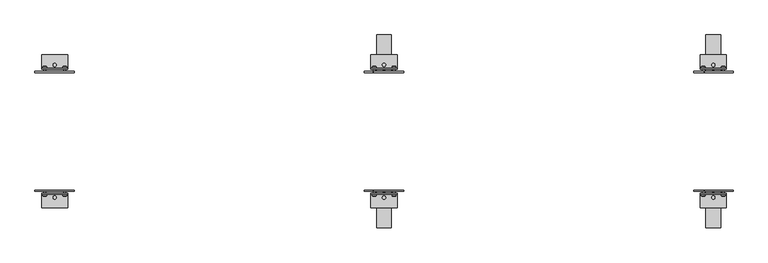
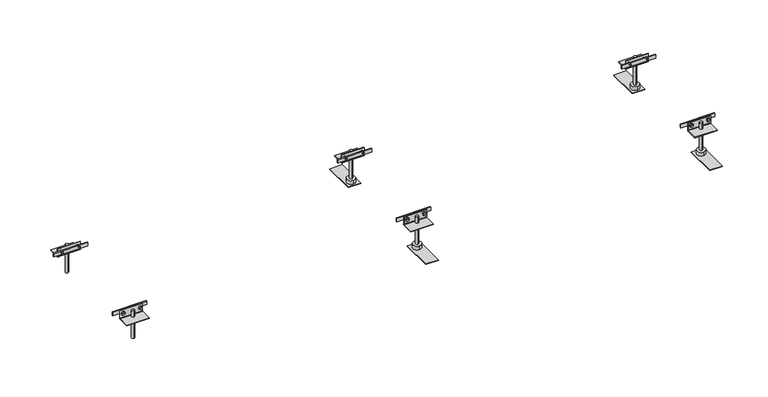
"""IFC4 building model written with IfcOpenShell, lengths in millimetres: proxy geometry, Electrical_Installation_Hager_BKW-Trunking-System-With-Trunking-Bottom-For-Dry-Cleaned-Floors : Nominal Size 300  Length 2.4 m."""

from ifc_helpers import new_model, si_unit, point, frame, frame_2d, origin, place, context, project, spatial, polyline, circle_curve, ellipse_curve, trimmed, segment, composite_curve, outline, extrude, source, transform, mapped, element, save
from ifc_brep_helpers import plane_surface, cylinder_surface, revolved_surface, advanced_brep


def electrical_fixtures_0b4ac500(model_context):
    return source(origin(), model_context, "Body", "SolidModel", [
        advanced_brep(
        [(1629.0575247, -156.6418922, 2.5), (1619.4769168, -156.6418922, 2.5), (1619.4769168, -154.7, 2.5), (1629.0575247, -154.7, 2.5), (1621.7042517, -154.7, 2.5), (1626.8301898, -154.7, 2.5), (1621.7042517, -142.7, 2.5), (1626.8301898, -142.7, 2.5), (1624.2672208, -142.7, 2.5), (1624.2672208, -158.3479209, 2.5)],
        [
            (0, 1, circle_curve(frame((1624.2672208, -156.6418922, 2.5), z_axis=(0.0, 1.0, 0.0), x_axis=(-1.0, 0.0, 0.0)), 4.790304)),
            (1, 2),
            (2, 3, circle_curve(frame((1624.2672208, -154.7, 2.5), z_axis=(0.0, -1.0, 0.0), x_axis=(-1.0, 0.0, 0.0)), 4.790304)),
            (3, 0),
            (1, 0, circle_curve(frame((1624.2672208, -156.6418922, 2.5), z_axis=(0.0, 1.0, 0.0), x_axis=(-1.0, 0.0, 0.0)), 4.790304)),
            (3, 2, circle_curve(frame((1624.2672208, -154.7, 2.5), z_axis=(0.0, -1.0, 0.0), x_axis=(-1.0, 0.0, 0.0)), 4.790304)),
            (2, 4),
            (4, 5, circle_curve(frame((1624.2672208, -154.7, 2.5), z_axis=(0.0, -1.0, 0.0), x_axis=(-1.0, 0.0, 0.0)), 2.562969)),
            (5, 3),
            (5, 4, circle_curve(frame((1624.2672208, -154.7, 2.5), z_axis=(0.0, -1.0, 0.0), x_axis=(-1.0, 0.0, 0.0)), 2.562969)),
            (4, 6),
            (6, 7, circle_curve(frame((1624.2672208, -142.7, 2.5), z_axis=(0.0, -1.0, 0.0), x_axis=(-1.0, 0.0, 0.0)), 2.562969)),
            (7, 5),
            (7, 6, circle_curve(frame((1624.2672208, -142.7, 2.5), z_axis=(0.0, -1.0, 0.0), x_axis=(-1.0, 0.0, 0.0)), 2.562969)),
            (6, 8),
            (8, 7),
            (9, 1, circle_curve(frame((1624.2353142, -150.8592246, 2.5), z_axis=(0.0, 0.0, -1.0), x_axis=(-1.0, 0.0, 0.0)), 7.4887643)),
            (0, 9, circle_curve(frame((1624.2991274, -150.8592246, 2.5), z_axis=(0.0, 0.0, -1.0), x_axis=(1.0, 0.0, 0.0)), 7.4887643)),
        ],
        [
            cylinder_surface(frame((1624.2672208, -154.2950786, 2.5), z_axis=(0.0, -1.0, 0.0), x_axis=(-1.0, 0.0, 0.0)), 4.790304),
            plane_surface(frame((1624.2672208, -154.7, 2.5), z_axis=(0.0, 1.0, 0.0), x_axis=(-1.0, 0.0, 0.0))),
            cylinder_surface(frame((1624.2672208, -154.2950786, 2.5), z_axis=(0.0, -1.0, 0.0), x_axis=(-1.0, 0.0, 0.0)), 2.562969),
            plane_surface(frame((1624.2672208, -142.7, 2.5), z_axis=(0.0, 1.0, 0.0), x_axis=(-1.0, 0.0, 0.0))),
            revolved_surface(trimmed(ellipse_curve(frame((1624.2353142, -150.8592246, 2.5), z_axis=(0.0, 0.0, 1.0), x_axis=(-1.0, 0.0, 0.0)), 7.4887643, 7.4887643), [point((1619.4769168, -156.6418922, 2.5))], [point((1624.2672208, -158.3479209, 2.5))], True, "CARTESIAN"), (1624.2672208, -154.2950786, 2.5), (0.0, -1.0, 0.0)),
        ],
        [
            (0, [[1, 2, 3, 4]]),
            (0, [[5, -4, 6, -2]]),
            (1, [[-3, 7, 8, 9]]),
            (1, [[-6, -9, 10, -7]]),
            (2, [[-8, 11, 12, 13]]),
            (2, [[-10, -13, 14, -11]]),
            (3, [[-12, 15, 16]]),
            (3, [[-14, -16, -15]]),
            (4, [[17, -1, 18]]),
            (4, [[-18, -5, -17]]),
        ],
    ),
        advanced_brep(
        [(1580.790304, -156.6418922, 2.5), (1571.209696, -156.6418922, 2.5), (1571.209696, -154.7, 2.5), (1580.790304, -154.7, 2.5), (1573.437031, -154.7, 2.5), (1578.562969, -154.7, 2.5), (1573.437031, -142.7, 2.5), (1578.562969, -142.7, 2.5), (1576.0, -142.7, 2.5), (1576.0, -158.3479209, 2.5)],
        [
            (0, 1, circle_curve(frame((1576.0, -156.6418922, 2.5), z_axis=(0.0, 1.0, 0.0), x_axis=(-1.0, 0.0, 0.0)), 4.790304)),
            (1, 2),
            (2, 3, circle_curve(frame((1576.0, -154.7, 2.5), z_axis=(0.0, -1.0, 0.0), x_axis=(-1.0, 0.0, 0.0)), 4.790304)),
            (3, 0),
            (1, 0, circle_curve(frame((1576.0, -156.6418922, 2.5), z_axis=(0.0, 1.0, 0.0), x_axis=(-1.0, 0.0, 0.0)), 4.790304)),
            (3, 2, circle_curve(frame((1576.0, -154.7, 2.5), z_axis=(0.0, -1.0, 0.0), x_axis=(-1.0, 0.0, 0.0)), 4.790304)),
            (2, 4),
            (4, 5, circle_curve(frame((1576.0, -154.7, 2.5), z_axis=(0.0, -1.0, 0.0), x_axis=(-1.0, 0.0, 0.0)), 2.562969)),
            (5, 3),
            (5, 4, circle_curve(frame((1576.0, -154.7, 2.5), z_axis=(0.0, -1.0, 0.0), x_axis=(-1.0, 0.0, 0.0)), 2.562969)),
            (4, 6),
            (6, 7, circle_curve(frame((1576.0, -142.7, 2.5), z_axis=(0.0, -1.0, 0.0), x_axis=(-1.0, 0.0, 0.0)), 2.562969)),
            (7, 5),
            (7, 6, circle_curve(frame((1576.0, -142.7, 2.5), z_axis=(0.0, -1.0, 0.0), x_axis=(-1.0, 0.0, 0.0)), 2.562969)),
            (6, 8),
            (8, 7),
            (9, 1, circle_curve(frame((1575.9680934, -150.8592246, 2.5), z_axis=(0.0, 0.0, -1.0), x_axis=(-1.0, 0.0, 0.0)), 7.4887643)),
            (0, 9, circle_curve(frame((1576.0319066, -150.8592246, 2.5), z_axis=(0.0, 0.0, -1.0), x_axis=(1.0, 0.0, 0.0)), 7.4887643)),
        ],
        [
            cylinder_surface(frame((1576.0, -154.2950786, 2.5), z_axis=(0.0, -1.0, 0.0), x_axis=(-1.0, 0.0, 0.0)), 4.790304),
            plane_surface(frame((1576.0, -154.7, 2.5), z_axis=(0.0, 1.0, 0.0), x_axis=(-1.0, 0.0, 0.0))),
            cylinder_surface(frame((1576.0, -154.2950786, 2.5), z_axis=(0.0, -1.0, 0.0), x_axis=(-1.0, 0.0, 0.0)), 2.562969),
            plane_surface(frame((1576.0, -142.7, 2.5), z_axis=(0.0, 1.0, 0.0), x_axis=(-1.0, 0.0, 0.0))),
            revolved_surface(trimmed(ellipse_curve(frame((1575.9680934, -150.8592246, 2.5), z_axis=(0.0, 0.0, 1.0), x_axis=(-1.0, 0.0, 0.0)), 7.4887643, 7.4887643), [point((1571.209696, -156.6418922, 2.5))], [point((1576.0, -158.3479209, 2.5))], True, "CARTESIAN"), (1576.0, -154.2950786, 2.5), (0.0, -1.0, 0.0)),
        ],
        [
            (0, [[1, 2, 3, 4]]),
            (0, [[5, -4, 6, -2]]),
            (1, [[-3, 7, 8, 9]]),
            (1, [[-6, -9, 10, -7]]),
            (2, [[-8, 11, 12, 13]]),
            (2, [[-10, -13, 14, -11]]),
            (3, [[-12, 15, 16]]),
            (3, [[-14, -16, -15]]),
            (4, [[17, -1, 18]]),
            (4, [[-18, -5, -17]]),
        ],
    ),
        advanced_brep(
        [(1629.0575247, 154.7, 2.5), (1619.4769168, 154.7, 2.5), (1619.4769168, 156.6418922, 2.5), (1629.0575247, 156.6418922, 2.5), (1626.8301898, 154.7, 2.5), (1621.7042517, 154.7, 2.5), (1626.8301898, 142.7, 2.5), (1621.7042517, 142.7, 2.5), (1624.2672208, 142.7, 2.5), (1624.2672208, 158.3479209, 2.5)],
        [
            (0, 1, circle_curve(frame((1624.2672208, 154.7, 2.5), z_axis=(0.0, 1.0, 0.0), x_axis=(-1.0, 0.0, 0.0)), 4.790304)),
            (1, 2),
            (2, 3, circle_curve(frame((1624.2672208, 156.6418922, 2.5), z_axis=(0.0, -1.0, 0.0), x_axis=(-1.0, 0.0, 0.0)), 4.790304)),
            (3, 0),
            (1, 0, circle_curve(frame((1624.2672208, 154.7, 2.5), z_axis=(0.0, 1.0, 0.0), x_axis=(-1.0, 0.0, 0.0)), 4.790304)),
            (3, 2, circle_curve(frame((1624.2672208, 156.6418922, 2.5), z_axis=(0.0, -1.0, 0.0), x_axis=(-1.0, 0.0, 0.0)), 4.790304)),
            (4, 5, circle_curve(frame((1624.2672208, 154.7, 2.5), z_axis=(0.0, 1.0, 0.0), x_axis=(-1.0, 0.0, 0.0)), 2.562969)),
            (5, 1),
            (0, 4),
            (5, 4, circle_curve(frame((1624.2672208, 154.7, 2.5), z_axis=(0.0, 1.0, 0.0), x_axis=(-1.0, 0.0, 0.0)), 2.562969)),
            (6, 7, circle_curve(frame((1624.2672208, 142.7, 2.5), z_axis=(0.0, 1.0, 0.0), x_axis=(-1.0, 0.0, 0.0)), 2.562969)),
            (7, 5),
            (4, 6),
            (7, 6, circle_curve(frame((1624.2672208, 142.7, 2.5), z_axis=(0.0, 1.0, 0.0), x_axis=(-1.0, 0.0, 0.0)), 2.562969)),
            (8, 7),
            (6, 8),
            (2, 9, circle_curve(frame((1624.2353142, 150.8592246, 2.5), z_axis=(0.0, 0.0, -1.0), x_axis=(-1.0, 0.0, 0.0)), 7.4887643)),
            (9, 3, circle_curve(frame((1624.2991274, 150.8592246, 2.5), z_axis=(0.0, 0.0, -1.0), x_axis=(1.0, 0.0, 0.0)), 7.4887643)),
        ],
        [
            cylinder_surface(frame((1624.2672208, 154.2950786, 2.5), z_axis=(0.0, -1.0, 0.0), x_axis=(-1.0, 0.0, 0.0)), 4.790304),
            plane_surface(frame((1624.2672208, 154.7, 2.5), z_axis=(0.0, -1.0, 0.0), x_axis=(-1.0, 0.0, 0.0))),
            cylinder_surface(frame((1624.2672208, 154.2950786, 2.5), z_axis=(0.0, -1.0, 0.0), x_axis=(-1.0, 0.0, 0.0)), 2.562969),
            plane_surface(frame((1624.2672208, 142.7, 2.5), z_axis=(0.0, -1.0, 0.0), x_axis=(-1.0, 0.0, 0.0))),
            revolved_surface(trimmed(ellipse_curve(frame((1624.2353142, 150.8592246, 2.5), z_axis=(0.0, 0.0, 1.0), x_axis=(-1.0, 0.0, 0.0)), 7.4887643, 7.4887643), [point((1624.2672208, 158.3479209, 2.5))], [point((1619.4769168, 156.6418922, 2.5))], True, "CARTESIAN"), (1624.2672208, 154.2950786, 2.5), (0.0, -1.0, 0.0)),
        ],
        [
            (0, [[1, 2, 3, 4]]),
            (0, [[5, -4, 6, -2]]),
            (1, [[7, 8, -1, 9]]),
            (1, [[10, -9, -5, -8]]),
            (2, [[11, 12, -7, 13]]),
            (2, [[14, -13, -10, -12]]),
            (3, [[15, -11, 16]]),
            (3, [[-16, -14, -15]]),
            (4, [[-3, 17, 18]]),
            (4, [[-6, -18, -17]]),
        ],
    ),
        advanced_brep(
        [(1580.790304, 154.7, 2.5), (1571.209696, 154.7, 2.5), (1571.209696, 156.6418922, 2.5), (1580.790304, 156.6418922, 2.5), (1578.562969, 154.7, 2.5), (1573.437031, 154.7, 2.5), (1578.562969, 142.7, 2.5), (1573.437031, 142.7, 2.5), (1576.0, 142.7, 2.5), (1576.0, 158.3479209, 2.5)],
        [
            (0, 1, circle_curve(frame((1576.0, 154.7, 2.5), z_axis=(0.0, 1.0, 0.0), x_axis=(-1.0, 0.0, 0.0)), 4.790304)),
            (1, 2),
            (2, 3, circle_curve(frame((1576.0, 156.6418922, 2.5), z_axis=(0.0, -1.0, 0.0), x_axis=(-1.0, 0.0, 0.0)), 4.790304)),
            (3, 0),
            (1, 0, circle_curve(frame((1576.0, 154.7, 2.5), z_axis=(0.0, 1.0, 0.0), x_axis=(-1.0, 0.0, 0.0)), 4.790304)),
            (3, 2, circle_curve(frame((1576.0, 156.6418922, 2.5), z_axis=(0.0, -1.0, 0.0), x_axis=(-1.0, 0.0, 0.0)), 4.790304)),
            (4, 5, circle_curve(frame((1576.0, 154.7, 2.5), z_axis=(0.0, 1.0, 0.0), x_axis=(-1.0, 0.0, 0.0)), 2.562969)),
            (5, 1),
            (0, 4),
            (5, 4, circle_curve(frame((1576.0, 154.7, 2.5), z_axis=(0.0, 1.0, 0.0), x_axis=(-1.0, 0.0, 0.0)), 2.562969)),
            (6, 7, circle_curve(frame((1576.0, 142.7, 2.5), z_axis=(0.0, 1.0, 0.0), x_axis=(-1.0, 0.0, 0.0)), 2.562969)),
            (7, 5),
            (4, 6),
            (7, 6, circle_curve(frame((1576.0, 142.7, 2.5), z_axis=(0.0, 1.0, 0.0), x_axis=(-1.0, 0.0, 0.0)), 2.562969)),
            (8, 7),
            (6, 8),
            (2, 9, circle_curve(frame((1575.9680934, 150.8592246, 2.5), z_axis=(0.0, 0.0, -1.0), x_axis=(-1.0, 0.0, 0.0)), 7.4887643)),
            (9, 3, circle_curve(frame((1576.0319066, 150.8592246, 2.5), z_axis=(0.0, 0.0, -1.0), x_axis=(1.0, 0.0, 0.0)), 7.4887643)),
        ],
        [
            cylinder_surface(frame((1576.0, 154.2950786, 2.5), z_axis=(0.0, -1.0, 0.0), x_axis=(-1.0, 0.0, 0.0)), 4.790304),
            plane_surface(frame((1576.0, 154.7, 2.5), z_axis=(0.0, -1.0, 0.0), x_axis=(-1.0, 0.0, 0.0))),
            cylinder_surface(frame((1576.0, 154.2950786, 2.5), z_axis=(0.0, -1.0, 0.0), x_axis=(-1.0, 0.0, 0.0)), 2.562969),
            plane_surface(frame((1576.0, 142.7, 2.5), z_axis=(0.0, -1.0, 0.0), x_axis=(-1.0, 0.0, 0.0))),
            revolved_surface(trimmed(ellipse_curve(frame((1575.9680934, 150.8592246, 2.5), z_axis=(0.0, 0.0, 1.0), x_axis=(-1.0, 0.0, 0.0)), 7.4887643, 7.4887643), [point((1576.0, 158.3479209, 2.5))], [point((1571.209696, 156.6418922, 2.5))], True, "CARTESIAN"), (1576.0, 154.2950786, 2.5), (0.0, -1.0, 0.0)),
        ],
        [
            (0, [[1, 2, 3, 4]]),
            (0, [[5, -4, 6, -2]]),
            (1, [[7, 8, -1, 9]]),
            (1, [[10, -9, -5, -8]]),
            (2, [[11, 12, -7, 13]]),
            (2, [[14, -13, -10, -12]]),
            (3, [[15, -11, 16]]),
            (3, [[-16, -14, -15]]),
            (4, [[-3, 17, 18]]),
            (4, [[-6, -18, -17]]),
        ],
    ),
        extrude(outline(polyline([(1552.0, 142.7), (1552.0, 145.7), (1648.0, 145.7), (1648.0, 142.7), (1552.0, 142.7)])), frame((0.0, 0.0, -2.5), z_axis=(0.0, 0.0, 1.0), x_axis=(1.0, 0.0, 0.0)), (0.0, 0.0, 1.0), 10.0),
        extrude(outline(polyline([(1552.0, -145.7), (1552.0, -142.7), (1648.0, -142.7), (1648.0, -145.7), (1552.0, -145.7)])), frame((0.0, 0.0, -2.5), z_axis=(0.0, 0.0, 1.0), x_axis=(1.0, 0.0, 0.0)), (0.0, 0.0, 1.0), 10.0),
        extrude(outline(composite_curve([segment(polyline([(150.6, 10.9), (152.6, 10.9), (152.6, -11.1088822)]), True, "CONTINUOUS"), segment(trimmed(circle_curve(frame_2d((153.5911178, -11.1088822)), 0.9911178), [point((152.6, -11.1088822))], [point((153.5911178, -12.1))], True, "CARTESIAN"), True, "CONTINUOUS"), segment(polyline([(153.5911178, -12.1), (185.6, -12.1), (185.6, -14.1), (153.6002521, -14.1)]), True, "CONTINUOUS"), segment(trimmed(circle_curve(frame_2d((153.6002521, -11.0997479)), 3.0002521), [point((153.6002521, -14.1))], [point((150.6, -11.0997479))], False, "CARTESIAN"), True, "CONTINUOUS"), segment(polyline([(150.6, -11.0997479), (150.6, 10.9)]), True, "CONTINUOUS")], self_intersect=False)), frame((1568.3, 0.0, 0.0), z_axis=(1.0, 0.0, 0.0), x_axis=(0.0, 1.0, 0.0)), (0.0, 0.0, 1.0), 63.4),
        extrude(outline(composite_curve([segment(polyline([(-150.6, 10.9), (-150.6, -11.0997479)]), True, "CONTINUOUS"), segment(trimmed(circle_curve(frame_2d((-153.6002521, -11.0997479)), 3.0002521), [point((-150.6, -11.0997479))], [point((-153.6002521, -14.1))], False, "CARTESIAN"), True, "CONTINUOUS"), segment(polyline([(-153.6002521, -14.1), (-185.6, -14.1), (-185.6, -12.1), (-153.5911178, -12.1)]), True, "CONTINUOUS"), segment(trimmed(circle_curve(frame_2d((-153.5911178, -11.1088822)), 0.9911178), [point((-153.5911178, -12.1))], [point((-152.6, -11.1088822))], True, "CARTESIAN"), True, "CONTINUOUS"), segment(polyline([(-152.6, -11.1088822), (-152.6, 10.9), (-150.6, 10.9)]), True, "CONTINUOUS")], self_intersect=False)), frame((1568.3, 0.0, 0.0), z_axis=(1.0, 0.0, 0.0), x_axis=(0.0, 1.0, 0.0)), (0.0, 0.0, 1.0), 63.4),
        extrude(outline(composite_curve([segment(trimmed(circle_curve(frame_2d((1600.0, 161.1712378)), 3.9923162), [point((1600.0, 165.163554))], [point((1600.0, 157.1789216))], False, "CARTESIAN"), True, "CONTINUOUS"), segment(trimmed(circle_curve(frame_2d((1600.0, 161.1712378)), 3.9923162), [point((1600.0, 157.1789216))], [point((1600.0, 165.163554))], False, "CARTESIAN"), True, "CONTINUOUS")], self_intersect=False)), frame((0.0, 0.0, -74.8), z_axis=(0.0, 0.0, 1.0), x_axis=(1.0, 0.0, 0.0)), (0.0, 0.0, 1.0), 81.8),
        extrude(outline(composite_curve([segment(trimmed(circle_curve(frame_2d((1600.0, -161.0787011)), 3.991847), [point((1600.0, -157.0868541))], [point((1600.0, -165.0705482))], False, "CARTESIAN"), True, "CONTINUOUS"), segment(trimmed(circle_curve(frame_2d((1600.0, -161.0787011)), 3.991847), [point((1600.0, -165.0705482))], [point((1600.0, -157.0868541))], False, "CARTESIAN"), True, "CONTINUOUS")], self_intersect=False)), frame((0.0, 0.0, -74.8), z_axis=(0.0, 0.0, 1.0), x_axis=(1.0, 0.0, 0.0)), (0.0, 0.0, 1.0), 81.8),
        extrude(outline(composite_curve([segment(trimmed(circle_curve(frame_2d((1600.0, 161.1652527)), 12.0), [point((1600.0, 173.1652527))], [point((1600.0, 149.1652527))], False, "CARTESIAN"), True, "CONTINUOUS"), segment(trimmed(circle_curve(frame_2d((1600.0, 161.1652527)), 12.0), [point((1600.0, 149.1652527))], [point((1600.0, 173.1652527))], False, "CARTESIAN"), True, "CONTINUOUS")], self_intersect=False)), frame((0.0, 0.0, -85.5), z_axis=(0.0, 0.0, 1.0), x_axis=(1.0, 0.0, 0.0)), (0.0, 0.0, 1.0), 10.7),
        extrude(outline(composite_curve([segment(trimmed(circle_curve(frame_2d((1600.0, -161.112037)), 12.0), [point((1600.0, -149.112037))], [point((1600.0, -173.112037))], False, "CARTESIAN"), True, "CONTINUOUS"), segment(trimmed(circle_curve(frame_2d((1600.0, -161.112037)), 12.0), [point((1600.0, -173.112037))], [point((1600.0, -149.112037))], False, "CARTESIAN"), True, "CONTINUOUS")], self_intersect=False)), frame((0.0, 0.0, -85.5), z_axis=(0.0, 0.0, 1.0), x_axis=(1.0, 0.0, 0.0)), (0.0, 0.0, 1.0), 10.7),
        extrude(outline(polyline([(1618.0, 144.1), (1582.0, 144.1), (1582.0, 234.1), (1618.0, 234.1), (1618.0, 144.1)])), frame((0.0, 0.0, -87.0), z_axis=(0.0, 0.0, 1.0), x_axis=(1.0, 0.0, 0.0)), (0.0, 0.0, 1.0), 1.5),
        extrude(outline(polyline([(1618.0, -234.1), (1582.0, -234.1), (1582.0, -144.1), (1618.0, -144.1), (1618.0, -234.1)])), frame((0.0, 0.0, -87.0), z_axis=(0.0, 0.0, 1.0), x_axis=(1.0, 0.0, 0.0)), (0.0, 0.0, 1.0), 1.5),
        advanced_brep(
        [(829.0575247, -156.6418922, 2.5), (819.4769168, -156.6418922, 2.5), (819.4769168, -154.7, 2.5), (829.0575247, -154.7, 2.5), (821.7042517, -154.7, 2.5), (826.8301898, -154.7, 2.5), (821.7042517, -142.7, 2.5), (826.8301898, -142.7, 2.5), (824.2672208, -142.7, 2.5), (824.2672208, -158.3479209, 2.5)],
        [
            (0, 1, circle_curve(frame((824.2672208, -156.6418922, 2.5), z_axis=(0.0, 1.0, 0.0), x_axis=(-1.0, 0.0, 0.0)), 4.790304)),
            (1, 2),
            (2, 3, circle_curve(frame((824.2672208, -154.7, 2.5), z_axis=(0.0, -1.0, 0.0), x_axis=(-1.0, 0.0, 0.0)), 4.790304)),
            (3, 0),
            (1, 0, circle_curve(frame((824.2672208, -156.6418922, 2.5), z_axis=(0.0, 1.0, 0.0), x_axis=(-1.0, 0.0, 0.0)), 4.790304)),
            (3, 2, circle_curve(frame((824.2672208, -154.7, 2.5), z_axis=(0.0, -1.0, 0.0), x_axis=(-1.0, 0.0, 0.0)), 4.790304)),
            (2, 4),
            (4, 5, circle_curve(frame((824.2672208, -154.7, 2.5), z_axis=(0.0, -1.0, 0.0), x_axis=(-1.0, 0.0, 0.0)), 2.562969)),
            (5, 3),
            (5, 4, circle_curve(frame((824.2672208, -154.7, 2.5), z_axis=(0.0, -1.0, 0.0), x_axis=(-1.0, 0.0, 0.0)), 2.562969)),
            (4, 6),
            (6, 7, circle_curve(frame((824.2672208, -142.7, 2.5), z_axis=(0.0, -1.0, 0.0), x_axis=(-1.0, 0.0, 0.0)), 2.562969)),
            (7, 5),
            (7, 6, circle_curve(frame((824.2672208, -142.7, 2.5), z_axis=(0.0, -1.0, 0.0), x_axis=(-1.0, 0.0, 0.0)), 2.562969)),
            (6, 8),
            (8, 7),
            (9, 1, circle_curve(frame((824.2353142, -150.8592246, 2.5), z_axis=(0.0, 0.0, -1.0), x_axis=(-1.0, 0.0, 0.0)), 7.4887643)),
            (0, 9, circle_curve(frame((824.2991274, -150.8592246, 2.5), z_axis=(0.0, 0.0, -1.0), x_axis=(1.0, 0.0, 0.0)), 7.4887643)),
        ],
        [
            cylinder_surface(frame((824.2672208, -154.2950786, 2.5), z_axis=(0.0, -1.0, 0.0), x_axis=(-1.0, 0.0, 0.0)), 4.790304),
            plane_surface(frame((824.2672208, -154.7, 2.5), z_axis=(0.0, 1.0, 0.0), x_axis=(-1.0, 0.0, 0.0))),
            cylinder_surface(frame((824.2672208, -154.2950786, 2.5), z_axis=(0.0, -1.0, 0.0), x_axis=(-1.0, 0.0, 0.0)), 2.562969),
            plane_surface(frame((824.2672208, -142.7, 2.5), z_axis=(0.0, 1.0, 0.0), x_axis=(-1.0, 0.0, 0.0))),
            revolved_surface(trimmed(ellipse_curve(frame((824.2353142, -150.8592246, 2.5), z_axis=(0.0, 0.0, 1.0), x_axis=(-1.0, 0.0, 0.0)), 7.4887643, 7.4887643), [point((819.4769168, -156.6418922, 2.5))], [point((824.2672208, -158.3479209, 2.5))], True, "CARTESIAN"), (824.2672208, -154.2950786, 2.5), (0.0, -1.0, 0.0)),
        ],
        [
            (0, [[1, 2, 3, 4]]),
            (0, [[5, -4, 6, -2]]),
            (1, [[-3, 7, 8, 9]]),
            (1, [[-6, -9, 10, -7]]),
            (2, [[-8, 11, 12, 13]]),
            (2, [[-10, -13, 14, -11]]),
            (3, [[-12, 15, 16]]),
            (3, [[-14, -16, -15]]),
            (4, [[17, -1, 18]]),
            (4, [[-18, -5, -17]]),
        ],
    ),
        advanced_brep(
        [(780.790304, -156.6418922, 2.5), (771.209696, -156.6418922, 2.5), (771.209696, -154.7, 2.5), (780.790304, -154.7, 2.5), (773.437031, -154.7, 2.5), (778.562969, -154.7, 2.5), (773.437031, -142.7, 2.5), (778.562969, -142.7, 2.5), (776.0, -142.7, 2.5), (776.0, -158.3479209, 2.5)],
        [
            (0, 1, circle_curve(frame((776.0, -156.6418922, 2.5), z_axis=(0.0, 1.0, 0.0), x_axis=(-1.0, 0.0, 0.0)), 4.790304)),
            (1, 2),
            (2, 3, circle_curve(frame((776.0, -154.7, 2.5), z_axis=(0.0, -1.0, 0.0), x_axis=(-1.0, 0.0, 0.0)), 4.790304)),
            (3, 0),
            (1, 0, circle_curve(frame((776.0, -156.6418922, 2.5), z_axis=(0.0, 1.0, 0.0), x_axis=(-1.0, 0.0, 0.0)), 4.790304)),
            (3, 2, circle_curve(frame((776.0, -154.7, 2.5), z_axis=(0.0, -1.0, 0.0), x_axis=(-1.0, 0.0, 0.0)), 4.790304)),
            (2, 4),
            (4, 5, circle_curve(frame((776.0, -154.7, 2.5), z_axis=(0.0, -1.0, 0.0), x_axis=(-1.0, 0.0, 0.0)), 2.562969)),
            (5, 3),
            (5, 4, circle_curve(frame((776.0, -154.7, 2.5), z_axis=(0.0, -1.0, 0.0), x_axis=(-1.0, 0.0, 0.0)), 2.562969)),
            (4, 6),
            (6, 7, circle_curve(frame((776.0, -142.7, 2.5), z_axis=(0.0, -1.0, 0.0), x_axis=(-1.0, 0.0, 0.0)), 2.562969)),
            (7, 5),
            (7, 6, circle_curve(frame((776.0, -142.7, 2.5), z_axis=(0.0, -1.0, 0.0), x_axis=(-1.0, 0.0, 0.0)), 2.562969)),
            (6, 8),
            (8, 7),
            (9, 1, circle_curve(frame((775.9680934, -150.8592246, 2.5), z_axis=(0.0, 0.0, -1.0), x_axis=(-1.0, 0.0, 0.0)), 7.4887643)),
            (0, 9, circle_curve(frame((776.0319066, -150.8592246, 2.5), z_axis=(0.0, 0.0, -1.0), x_axis=(1.0, 0.0, 0.0)), 7.4887643)),
        ],
        [
            cylinder_surface(frame((776.0, -154.2950786, 2.5), z_axis=(0.0, -1.0, 0.0), x_axis=(-1.0, 0.0, 0.0)), 4.790304),
            plane_surface(frame((776.0, -154.7, 2.5), z_axis=(0.0, 1.0, 0.0), x_axis=(-1.0, 0.0, 0.0))),
            cylinder_surface(frame((776.0, -154.2950786, 2.5), z_axis=(0.0, -1.0, 0.0), x_axis=(-1.0, 0.0, 0.0)), 2.562969),
            plane_surface(frame((776.0, -142.7, 2.5), z_axis=(0.0, 1.0, 0.0), x_axis=(-1.0, 0.0, 0.0))),
            revolved_surface(trimmed(ellipse_curve(frame((775.9680934, -150.8592246, 2.5), z_axis=(0.0, 0.0, 1.0), x_axis=(-1.0, 0.0, 0.0)), 7.4887643, 7.4887643), [point((771.209696, -156.6418922, 2.5))], [point((776.0, -158.3479209, 2.5))], True, "CARTESIAN"), (776.0, -154.2950786, 2.5), (0.0, -1.0, 0.0)),
        ],
        [
            (0, [[1, 2, 3, 4]]),
            (0, [[5, -4, 6, -2]]),
            (1, [[-3, 7, 8, 9]]),
            (1, [[-6, -9, 10, -7]]),
            (2, [[-8, 11, 12, 13]]),
            (2, [[-10, -13, 14, -11]]),
            (3, [[-12, 15, 16]]),
            (3, [[-14, -16, -15]]),
            (4, [[17, -1, 18]]),
            (4, [[-18, -5, -17]]),
        ],
    ),
        advanced_brep(
        [(829.0575247, 154.7, 2.5), (819.4769168, 154.7, 2.5), (819.4769168, 156.6418922, 2.5), (829.0575247, 156.6418922, 2.5), (826.8301898, 154.7, 2.5), (821.7042517, 154.7, 2.5), (826.8301898, 142.7, 2.5), (821.7042517, 142.7, 2.5), (824.2672208, 142.7, 2.5), (824.2672208, 158.3479209, 2.5)],
        [
            (0, 1, circle_curve(frame((824.2672208, 154.7, 2.5), z_axis=(0.0, 1.0, 0.0), x_axis=(-1.0, 0.0, 0.0)), 4.790304)),
            (1, 2),
            (2, 3, circle_curve(frame((824.2672208, 156.6418922, 2.5), z_axis=(0.0, -1.0, 0.0), x_axis=(-1.0, 0.0, 0.0)), 4.790304)),
            (3, 0),
            (1, 0, circle_curve(frame((824.2672208, 154.7, 2.5), z_axis=(0.0, 1.0, 0.0), x_axis=(-1.0, 0.0, 0.0)), 4.790304)),
            (3, 2, circle_curve(frame((824.2672208, 156.6418922, 2.5), z_axis=(0.0, -1.0, 0.0), x_axis=(-1.0, 0.0, 0.0)), 4.790304)),
            (4, 5, circle_curve(frame((824.2672208, 154.7, 2.5), z_axis=(0.0, 1.0, 0.0), x_axis=(-1.0, 0.0, 0.0)), 2.562969)),
            (5, 1),
            (0, 4),
            (5, 4, circle_curve(frame((824.2672208, 154.7, 2.5), z_axis=(0.0, 1.0, 0.0), x_axis=(-1.0, 0.0, 0.0)), 2.562969)),
            (6, 7, circle_curve(frame((824.2672208, 142.7, 2.5), z_axis=(0.0, 1.0, 0.0), x_axis=(-1.0, 0.0, 0.0)), 2.562969)),
            (7, 5),
            (4, 6),
            (7, 6, circle_curve(frame((824.2672208, 142.7, 2.5), z_axis=(0.0, 1.0, 0.0), x_axis=(-1.0, 0.0, 0.0)), 2.562969)),
            (8, 7),
            (6, 8),
            (2, 9, circle_curve(frame((824.2353142, 150.8592246, 2.5), z_axis=(0.0, 0.0, -1.0), x_axis=(-1.0, 0.0, 0.0)), 7.4887643)),
            (9, 3, circle_curve(frame((824.2991274, 150.8592246, 2.5), z_axis=(0.0, 0.0, -1.0), x_axis=(1.0, 0.0, 0.0)), 7.4887643)),
        ],
        [
            cylinder_surface(frame((824.2672208, 154.2950786, 2.5), z_axis=(0.0, -1.0, 0.0), x_axis=(-1.0, 0.0, 0.0)), 4.790304),
            plane_surface(frame((824.2672208, 154.7, 2.5), z_axis=(0.0, -1.0, 0.0), x_axis=(-1.0, 0.0, 0.0))),
            cylinder_surface(frame((824.2672208, 154.2950786, 2.5), z_axis=(0.0, -1.0, 0.0), x_axis=(-1.0, 0.0, 0.0)), 2.562969),
            plane_surface(frame((824.2672208, 142.7, 2.5), z_axis=(0.0, -1.0, 0.0), x_axis=(-1.0, 0.0, 0.0))),
            revolved_surface(trimmed(ellipse_curve(frame((824.2353142, 150.8592246, 2.5), z_axis=(0.0, 0.0, 1.0), x_axis=(-1.0, 0.0, 0.0)), 7.4887643, 7.4887643), [point((824.2672208, 158.3479209, 2.5))], [point((819.4769168, 156.6418922, 2.5))], True, "CARTESIAN"), (824.2672208, 154.2950786, 2.5), (0.0, -1.0, 0.0)),
        ],
        [
            (0, [[1, 2, 3, 4]]),
            (0, [[5, -4, 6, -2]]),
            (1, [[7, 8, -1, 9]]),
            (1, [[10, -9, -5, -8]]),
            (2, [[11, 12, -7, 13]]),
            (2, [[14, -13, -10, -12]]),
            (3, [[15, -11, 16]]),
            (3, [[-16, -14, -15]]),
            (4, [[-3, 17, 18]]),
            (4, [[-6, -18, -17]]),
        ],
    ),
        advanced_brep(
        [(780.790304, 154.7, 2.5), (771.209696, 154.7, 2.5), (771.209696, 156.6418922, 2.5), (780.790304, 156.6418922, 2.5), (778.562969, 154.7, 2.5), (773.437031, 154.7, 2.5), (778.562969, 142.7, 2.5), (773.437031, 142.7, 2.5), (776.0, 142.7, 2.5), (776.0, 158.3479209, 2.5)],
        [
            (0, 1, circle_curve(frame((776.0, 154.7, 2.5), z_axis=(0.0, 1.0, 0.0), x_axis=(-1.0, 0.0, 0.0)), 4.790304)),
            (1, 2),
            (2, 3, circle_curve(frame((776.0, 156.6418922, 2.5), z_axis=(0.0, -1.0, 0.0), x_axis=(-1.0, 0.0, 0.0)), 4.790304)),
            (3, 0),
            (1, 0, circle_curve(frame((776.0, 154.7, 2.5), z_axis=(0.0, 1.0, 0.0), x_axis=(-1.0, 0.0, 0.0)), 4.790304)),
            (3, 2, circle_curve(frame((776.0, 156.6418922, 2.5), z_axis=(0.0, -1.0, 0.0), x_axis=(-1.0, 0.0, 0.0)), 4.790304)),
            (4, 5, circle_curve(frame((776.0, 154.7, 2.5), z_axis=(0.0, 1.0, 0.0), x_axis=(-1.0, 0.0, 0.0)), 2.562969)),
            (5, 1),
            (0, 4),
            (5, 4, circle_curve(frame((776.0, 154.7, 2.5), z_axis=(0.0, 1.0, 0.0), x_axis=(-1.0, 0.0, 0.0)), 2.562969)),
            (6, 7, circle_curve(frame((776.0, 142.7, 2.5), z_axis=(0.0, 1.0, 0.0), x_axis=(-1.0, 0.0, 0.0)), 2.562969)),
            (7, 5),
            (4, 6),
            (7, 6, circle_curve(frame((776.0, 142.7, 2.5), z_axis=(0.0, 1.0, 0.0), x_axis=(-1.0, 0.0, 0.0)), 2.562969)),
            (8, 7),
            (6, 8),
            (2, 9, circle_curve(frame((775.9680934, 150.8592246, 2.5), z_axis=(0.0, 0.0, -1.0), x_axis=(-1.0, 0.0, 0.0)), 7.4887643)),
            (9, 3, circle_curve(frame((776.0319066, 150.8592246, 2.5), z_axis=(0.0, 0.0, -1.0), x_axis=(1.0, 0.0, 0.0)), 7.4887643)),
        ],
        [
            cylinder_surface(frame((776.0, 154.2950786, 2.5), z_axis=(0.0, -1.0, 0.0), x_axis=(-1.0, 0.0, 0.0)), 4.790304),
            plane_surface(frame((776.0, 154.7, 2.5), z_axis=(0.0, -1.0, 0.0), x_axis=(-1.0, 0.0, 0.0))),
            cylinder_surface(frame((776.0, 154.2950786, 2.5), z_axis=(0.0, -1.0, 0.0), x_axis=(-1.0, 0.0, 0.0)), 2.562969),
            plane_surface(frame((776.0, 142.7, 2.5), z_axis=(0.0, -1.0, 0.0), x_axis=(-1.0, 0.0, 0.0))),
            revolved_surface(trimmed(ellipse_curve(frame((775.9680934, 150.8592246, 2.5), z_axis=(0.0, 0.0, 1.0), x_axis=(-1.0, 0.0, 0.0)), 7.4887643, 7.4887643), [point((776.0, 158.3479209, 2.5))], [point((771.209696, 156.6418922, 2.5))], True, "CARTESIAN"), (776.0, 154.2950786, 2.5), (0.0, -1.0, 0.0)),
        ],
        [
            (0, [[1, 2, 3, 4]]),
            (0, [[5, -4, 6, -2]]),
            (1, [[7, 8, -1, 9]]),
            (1, [[10, -9, -5, -8]]),
            (2, [[11, 12, -7, 13]]),
            (2, [[14, -13, -10, -12]]),
            (3, [[15, -11, 16]]),
            (3, [[-16, -14, -15]]),
            (4, [[-3, 17, 18]]),
            (4, [[-6, -18, -17]]),
        ],
    ),
        extrude(outline(polyline([(752.0, 142.7), (752.0, 145.7), (848.0, 145.7), (848.0, 142.7), (752.0, 142.7)])), frame((0.0, 0.0, -2.5), z_axis=(0.0, 0.0, 1.0), x_axis=(1.0, 0.0, 0.0)), (0.0, 0.0, 1.0), 10.0),
        extrude(outline(polyline([(752.0, -145.7), (752.0, -142.7), (848.0, -142.7), (848.0, -145.7), (752.0, -145.7)])), frame((0.0, 0.0, -2.5), z_axis=(0.0, 0.0, 1.0), x_axis=(1.0, 0.0, 0.0)), (0.0, 0.0, 1.0), 10.0),
        extrude(outline(composite_curve([segment(polyline([(150.6, 10.9), (152.6, 10.9), (152.6, -11.1088822)]), True, "CONTINUOUS"), segment(trimmed(circle_curve(frame_2d((153.5911178, -11.1088822)), 0.9911178), [point((152.6, -11.1088822))], [point((153.5911178, -12.1))], True, "CARTESIAN"), True, "CONTINUOUS"), segment(polyline([(153.5911178, -12.1), (185.6, -12.1), (185.6, -14.1), (153.6002521, -14.1)]), True, "CONTINUOUS"), segment(trimmed(circle_curve(frame_2d((153.6002521, -11.0997479)), 3.0002521), [point((153.6002521, -14.1))], [point((150.6, -11.0997479))], False, "CARTESIAN"), True, "CONTINUOUS"), segment(polyline([(150.6, -11.0997479), (150.6, 10.9)]), True, "CONTINUOUS")], self_intersect=False)), frame((768.3, 0.0, 0.0), z_axis=(1.0, 0.0, 0.0), x_axis=(0.0, 1.0, 0.0)), (0.0, 0.0, 1.0), 63.4),
        extrude(outline(composite_curve([segment(polyline([(-150.6, 10.9), (-150.6, -11.0997479)]), True, "CONTINUOUS"), segment(trimmed(circle_curve(frame_2d((-153.6002521, -11.0997479)), 3.0002521), [point((-150.6, -11.0997479))], [point((-153.6002521, -14.1))], False, "CARTESIAN"), True, "CONTINUOUS"), segment(polyline([(-153.6002521, -14.1), (-185.6, -14.1), (-185.6, -12.1), (-153.5911178, -12.1)]), True, "CONTINUOUS"), segment(trimmed(circle_curve(frame_2d((-153.5911178, -11.1088822)), 0.9911178), [point((-153.5911178, -12.1))], [point((-152.6, -11.1088822))], True, "CARTESIAN"), True, "CONTINUOUS"), segment(polyline([(-152.6, -11.1088822), (-152.6, 10.9), (-150.6, 10.9)]), True, "CONTINUOUS")], self_intersect=False)), frame((768.3, 0.0, 0.0), z_axis=(1.0, 0.0, 0.0), x_axis=(0.0, 1.0, 0.0)), (0.0, 0.0, 1.0), 63.4),
        extrude(outline(composite_curve([segment(trimmed(circle_curve(frame_2d((800.0, 161.1712378)), 3.9923162), [point((800.0, 165.163554))], [point((800.0, 157.1789216))], False, "CARTESIAN"), True, "CONTINUOUS"), segment(trimmed(circle_curve(frame_2d((800.0, 161.1712378)), 3.9923162), [point((800.0, 157.1789216))], [point((800.0, 165.163554))], False, "CARTESIAN"), True, "CONTINUOUS")], self_intersect=False)), frame((0.0, 0.0, -74.8), z_axis=(0.0, 0.0, 1.0), x_axis=(1.0, 0.0, 0.0)), (0.0, 0.0, 1.0), 81.8),
        extrude(outline(composite_curve([segment(trimmed(circle_curve(frame_2d((800.0, -161.0787011)), 3.991847), [point((800.0, -157.0868541))], [point((800.0, -165.0705482))], False, "CARTESIAN"), True, "CONTINUOUS"), segment(trimmed(circle_curve(frame_2d((800.0, -161.0787011)), 3.991847), [point((800.0, -165.0705482))], [point((800.0, -157.0868541))], False, "CARTESIAN"), True, "CONTINUOUS")], self_intersect=False)), frame((0.0, 0.0, -74.8), z_axis=(0.0, 0.0, 1.0), x_axis=(1.0, 0.0, 0.0)), (0.0, 0.0, 1.0), 81.8),
        extrude(outline(composite_curve([segment(trimmed(circle_curve(frame_2d((800.0, 161.1652527)), 12.0), [point((800.0, 173.1652527))], [point((800.0, 149.1652527))], False, "CARTESIAN"), True, "CONTINUOUS"), segment(trimmed(circle_curve(frame_2d((800.0, 161.1652527)), 12.0), [point((800.0, 149.1652527))], [point((800.0, 173.1652527))], False, "CARTESIAN"), True, "CONTINUOUS")], self_intersect=False)), frame((0.0, 0.0, -85.5), z_axis=(0.0, 0.0, 1.0), x_axis=(1.0, 0.0, 0.0)), (0.0, 0.0, 1.0), 10.7),
        extrude(outline(composite_curve([segment(trimmed(circle_curve(frame_2d((800.0, -161.112037)), 12.0), [point((800.0, -149.112037))], [point((800.0, -173.112037))], False, "CARTESIAN"), True, "CONTINUOUS"), segment(trimmed(circle_curve(frame_2d((800.0, -161.112037)), 12.0), [point((800.0, -173.112037))], [point((800.0, -149.112037))], False, "CARTESIAN"), True, "CONTINUOUS")], self_intersect=False)), frame((0.0, 0.0, -85.5), z_axis=(0.0, 0.0, 1.0), x_axis=(1.0, 0.0, 0.0)), (0.0, 0.0, 1.0), 10.7),
        extrude(outline(polyline([(818.0, 144.1), (782.0, 144.1), (782.0, 234.1), (818.0, 234.1), (818.0, 144.1)])), frame((0.0, 0.0, -87.0), z_axis=(0.0, 0.0, 1.0), x_axis=(1.0, 0.0, 0.0)), (0.0, 0.0, 1.0), 1.5),
        extrude(outline(polyline([(818.0, -234.1), (782.0, -234.1), (782.0, -144.1), (818.0, -144.1), (818.0, -234.1)])), frame((0.0, 0.0, -87.0), z_axis=(0.0, 0.0, 1.0), x_axis=(1.0, 0.0, 0.0)), (0.0, 0.0, 1.0), 1.5),
        advanced_brep(
        [(29.0575247, -156.6418922, 2.5), (19.4769168, -156.6418922, 2.5), (19.4769168, -154.7, 2.5), (29.0575247, -154.7, 2.5), (21.7042517, -154.7, 2.5), (26.8301898, -154.7, 2.5), (21.7042517, -142.7, 2.5), (26.8301898, -142.7, 2.5), (24.2672208, -142.7, 2.5), (24.2672208, -158.3479209, 2.5)],
        [
            (0, 1, circle_curve(frame((24.2672208, -156.6418922, 2.5), z_axis=(0.0, 1.0, 0.0), x_axis=(-1.0, 0.0, 0.0)), 4.790304)),
            (1, 2),
            (2, 3, circle_curve(frame((24.2672208, -154.7, 2.5), z_axis=(0.0, -1.0, 0.0), x_axis=(-1.0, 0.0, 0.0)), 4.790304)),
            (3, 0),
            (1, 0, circle_curve(frame((24.2672208, -156.6418922, 2.5), z_axis=(0.0, 1.0, 0.0), x_axis=(-1.0, 0.0, 0.0)), 4.790304)),
            (3, 2, circle_curve(frame((24.2672208, -154.7, 2.5), z_axis=(0.0, -1.0, 0.0), x_axis=(-1.0, 0.0, 0.0)), 4.790304)),
            (2, 4),
            (4, 5, circle_curve(frame((24.2672208, -154.7, 2.5), z_axis=(0.0, -1.0, 0.0), x_axis=(-1.0, 0.0, 0.0)), 2.562969)),
            (5, 3),
            (5, 4, circle_curve(frame((24.2672208, -154.7, 2.5), z_axis=(0.0, -1.0, 0.0), x_axis=(-1.0, 0.0, 0.0)), 2.562969)),
            (4, 6),
            (6, 7, circle_curve(frame((24.2672208, -142.7, 2.5), z_axis=(0.0, -1.0, 0.0), x_axis=(-1.0, 0.0, 0.0)), 2.562969)),
            (7, 5),
            (7, 6, circle_curve(frame((24.2672208, -142.7, 2.5), z_axis=(0.0, -1.0, 0.0), x_axis=(-1.0, 0.0, 0.0)), 2.562969)),
            (6, 8),
            (8, 7),
            (9, 1, circle_curve(frame((24.2353142, -150.8592246, 2.5), z_axis=(0.0, 0.0, -1.0), x_axis=(-1.0, 0.0, 0.0)), 7.4887643)),
            (0, 9, circle_curve(frame((24.2991274, -150.8592246, 2.5), z_axis=(0.0, 0.0, -1.0), x_axis=(1.0, 0.0, 0.0)), 7.4887643)),
        ],
        [
            cylinder_surface(frame((24.2672208, -154.2950786, 2.5), z_axis=(0.0, -1.0, 0.0), x_axis=(-1.0, 0.0, 0.0)), 4.790304),
            plane_surface(frame((24.2672208, -154.7, 2.5), z_axis=(0.0, 1.0, 0.0), x_axis=(-1.0, 0.0, 0.0))),
            cylinder_surface(frame((24.2672208, -154.2950786, 2.5), z_axis=(0.0, -1.0, 0.0), x_axis=(-1.0, 0.0, 0.0)), 2.562969),
            plane_surface(frame((24.2672208, -142.7, 2.5), z_axis=(0.0, 1.0, 0.0), x_axis=(-1.0, 0.0, 0.0))),
            revolved_surface(trimmed(ellipse_curve(frame((24.2353142, -150.8592246, 2.5), z_axis=(0.0, 0.0, 1.0), x_axis=(-1.0, 0.0, 0.0)), 7.4887643, 7.4887643), [point((19.4769168, -156.6418922, 2.5))], [point((24.2672208, -158.3479209, 2.5))], True, "CARTESIAN"), (24.2672208, -154.2950786, 2.5), (0.0, -1.0, 0.0)),
        ],
        [
            (0, [[1, 2, 3, 4]]),
            (0, [[5, -4, 6, -2]]),
            (1, [[-3, 7, 8, 9]]),
            (1, [[-6, -9, 10, -7]]),
            (2, [[-8, 11, 12, 13]]),
            (2, [[-10, -13, 14, -11]]),
            (3, [[-12, 15, 16]]),
            (3, [[-14, -16, -15]]),
            (4, [[17, -1, 18]]),
            (4, [[-18, -5, -17]]),
        ],
    ),
        advanced_brep(
        [(-19.209696, -156.6418922, 2.5), (-28.790304, -156.6418922, 2.5), (-28.790304, -154.7, 2.5), (-19.209696, -154.7, 2.5), (-26.562969, -154.7, 2.5), (-21.437031, -154.7, 2.5), (-26.562969, -142.7, 2.5), (-21.437031, -142.7, 2.5), (-24.0, -142.7, 2.5), (-24.0, -158.3479209, 2.5)],
        [
            (0, 1, circle_curve(frame((-24.0, -156.6418922, 2.5), z_axis=(0.0, 1.0, 0.0), x_axis=(-1.0, 0.0, 0.0)), 4.790304)),
            (1, 2),
            (2, 3, circle_curve(frame((-24.0, -154.7, 2.5), z_axis=(0.0, -1.0, 0.0), x_axis=(-1.0, 0.0, 0.0)), 4.790304)),
            (3, 0),
            (1, 0, circle_curve(frame((-24.0, -156.6418922, 2.5), z_axis=(0.0, 1.0, 0.0), x_axis=(-1.0, 0.0, 0.0)), 4.790304)),
            (3, 2, circle_curve(frame((-24.0, -154.7, 2.5), z_axis=(0.0, -1.0, 0.0), x_axis=(-1.0, 0.0, 0.0)), 4.790304)),
            (2, 4),
            (4, 5, circle_curve(frame((-24.0, -154.7, 2.5), z_axis=(0.0, -1.0, 0.0), x_axis=(-1.0, 0.0, 0.0)), 2.562969)),
            (5, 3),
            (5, 4, circle_curve(frame((-24.0, -154.7, 2.5), z_axis=(0.0, -1.0, 0.0), x_axis=(-1.0, 0.0, 0.0)), 2.562969)),
            (4, 6),
            (6, 7, circle_curve(frame((-24.0, -142.7, 2.5), z_axis=(0.0, -1.0, 0.0), x_axis=(-1.0, 0.0, 0.0)), 2.562969)),
            (7, 5),
            (7, 6, circle_curve(frame((-24.0, -142.7, 2.5), z_axis=(0.0, -1.0, 0.0), x_axis=(-1.0, 0.0, 0.0)), 2.562969)),
            (6, 8),
            (8, 7),
            (9, 1, circle_curve(frame((-24.0319066, -150.8592246, 2.5), z_axis=(0.0, 0.0, -1.0), x_axis=(-1.0, 0.0, 0.0)), 7.4887643)),
            (0, 9, circle_curve(frame((-23.9680934, -150.8592246, 2.5), z_axis=(0.0, 0.0, -1.0), x_axis=(1.0, 0.0, 0.0)), 7.4887643)),
        ],
        [
            cylinder_surface(frame((-24.0, -154.2950786, 2.5), z_axis=(0.0, -1.0, 0.0), x_axis=(-1.0, 0.0, 0.0)), 4.790304),
            plane_surface(frame((-24.0, -154.7, 2.5), z_axis=(0.0, 1.0, 0.0), x_axis=(-1.0, 0.0, 0.0))),
            cylinder_surface(frame((-24.0, -154.2950786, 2.5), z_axis=(0.0, -1.0, 0.0), x_axis=(-1.0, 0.0, 0.0)), 2.562969),
            plane_surface(frame((-24.0, -142.7, 2.5), z_axis=(0.0, 1.0, 0.0), x_axis=(-1.0, 0.0, 0.0))),
            revolved_surface(trimmed(ellipse_curve(frame((-24.0319066, -150.8592246, 2.5), z_axis=(0.0, 0.0, 1.0), x_axis=(-1.0, 0.0, 0.0)), 7.4887643, 7.4887643), [point((-28.790304, -156.6418922, 2.5))], [point((-24.0, -158.3479209, 2.5))], True, "CARTESIAN"), (-24.0, -154.2950786, 2.5), (0.0, -1.0, 0.0)),
        ],
        [
            (0, [[1, 2, 3, 4]]),
            (0, [[5, -4, 6, -2]]),
            (1, [[-3, 7, 8, 9]]),
            (1, [[-6, -9, 10, -7]]),
            (2, [[-8, 11, 12, 13]]),
            (2, [[-10, -13, 14, -11]]),
            (3, [[-12, 15, 16]]),
            (3, [[-14, -16, -15]]),
            (4, [[17, -1, 18]]),
            (4, [[-18, -5, -17]]),
        ],
    ),
        advanced_brep(
        [(29.0575247, 154.7, 2.5), (19.4769168, 154.7, 2.5), (19.4769168, 156.6418922, 2.5), (29.0575247, 156.6418922, 2.5), (26.8301898, 154.7, 2.5), (21.7042517, 154.7, 2.5), (26.8301898, 142.7, 2.5), (21.7042517, 142.7, 2.5), (24.2672208, 142.7, 2.5), (24.2672208, 158.3479209, 2.5)],
        [
            (0, 1, circle_curve(frame((24.2672208, 154.7, 2.5), z_axis=(0.0, 1.0, 0.0), x_axis=(-1.0, 0.0, 0.0)), 4.790304)),
            (1, 2),
            (2, 3, circle_curve(frame((24.2672208, 156.6418922, 2.5), z_axis=(0.0, -1.0, 0.0), x_axis=(-1.0, 0.0, 0.0)), 4.790304)),
            (3, 0),
            (1, 0, circle_curve(frame((24.2672208, 154.7, 2.5), z_axis=(0.0, 1.0, 0.0), x_axis=(-1.0, 0.0, 0.0)), 4.790304)),
            (3, 2, circle_curve(frame((24.2672208, 156.6418922, 2.5), z_axis=(0.0, -1.0, 0.0), x_axis=(-1.0, 0.0, 0.0)), 4.790304)),
            (4, 5, circle_curve(frame((24.2672208, 154.7, 2.5), z_axis=(0.0, 1.0, 0.0), x_axis=(-1.0, 0.0, 0.0)), 2.562969)),
            (5, 1),
            (0, 4),
            (5, 4, circle_curve(frame((24.2672208, 154.7, 2.5), z_axis=(0.0, 1.0, 0.0), x_axis=(-1.0, 0.0, 0.0)), 2.562969)),
            (6, 7, circle_curve(frame((24.2672208, 142.7, 2.5), z_axis=(0.0, 1.0, 0.0), x_axis=(-1.0, 0.0, 0.0)), 2.562969)),
            (7, 5),
            (4, 6),
            (7, 6, circle_curve(frame((24.2672208, 142.7, 2.5), z_axis=(0.0, 1.0, 0.0), x_axis=(-1.0, 0.0, 0.0)), 2.562969)),
            (8, 7),
            (6, 8),
            (2, 9, circle_curve(frame((24.2353142, 150.8592246, 2.5), z_axis=(0.0, 0.0, -1.0), x_axis=(-1.0, 0.0, 0.0)), 7.4887643)),
            (9, 3, circle_curve(frame((24.2991274, 150.8592246, 2.5), z_axis=(0.0, 0.0, -1.0), x_axis=(1.0, 0.0, 0.0)), 7.4887643)),
        ],
        [
            cylinder_surface(frame((24.2672208, 154.2950786, 2.5), z_axis=(0.0, -1.0, 0.0), x_axis=(-1.0, 0.0, 0.0)), 4.790304),
            plane_surface(frame((24.2672208, 154.7, 2.5), z_axis=(0.0, -1.0, 0.0), x_axis=(-1.0, 0.0, 0.0))),
            cylinder_surface(frame((24.2672208, 154.2950786, 2.5), z_axis=(0.0, -1.0, 0.0), x_axis=(-1.0, 0.0, 0.0)), 2.562969),
            plane_surface(frame((24.2672208, 142.7, 2.5), z_axis=(0.0, -1.0, 0.0), x_axis=(-1.0, 0.0, 0.0))),
            revolved_surface(trimmed(ellipse_curve(frame((24.2353142, 150.8592246, 2.5), z_axis=(0.0, 0.0, 1.0), x_axis=(-1.0, 0.0, 0.0)), 7.4887643, 7.4887643), [point((24.2672208, 158.3479209, 2.5))], [point((19.4769168, 156.6418922, 2.5))], True, "CARTESIAN"), (24.2672208, 154.2950786, 2.5), (0.0, -1.0, 0.0)),
        ],
        [
            (0, [[1, 2, 3, 4]]),
            (0, [[5, -4, 6, -2]]),
            (1, [[7, 8, -1, 9]]),
            (1, [[10, -9, -5, -8]]),
            (2, [[11, 12, -7, 13]]),
            (2, [[14, -13, -10, -12]]),
            (3, [[15, -11, 16]]),
            (3, [[-16, -14, -15]]),
            (4, [[-3, 17, 18]]),
            (4, [[-6, -18, -17]]),
        ],
    ),
        advanced_brep(
        [(-19.209696, 154.7, 2.5), (-28.790304, 154.7, 2.5), (-28.790304, 156.6418922, 2.5), (-19.209696, 156.6418922, 2.5), (-21.437031, 154.7, 2.5), (-26.562969, 154.7, 2.5), (-21.437031, 142.7, 2.5), (-26.562969, 142.7, 2.5), (-24.0, 142.7, 2.5), (-24.0, 158.3479209, 2.5)],
        [
            (0, 1, circle_curve(frame((-24.0, 154.7, 2.5), z_axis=(0.0, 1.0, 0.0), x_axis=(-1.0, 0.0, 0.0)), 4.790304)),
            (1, 2),
            (2, 3, circle_curve(frame((-24.0, 156.6418922, 2.5), z_axis=(0.0, -1.0, 0.0), x_axis=(-1.0, 0.0, 0.0)), 4.790304)),
            (3, 0),
            (1, 0, circle_curve(frame((-24.0, 154.7, 2.5), z_axis=(0.0, 1.0, 0.0), x_axis=(-1.0, 0.0, 0.0)), 4.790304)),
            (3, 2, circle_curve(frame((-24.0, 156.6418922, 2.5), z_axis=(0.0, -1.0, 0.0), x_axis=(-1.0, 0.0, 0.0)), 4.790304)),
            (4, 5, circle_curve(frame((-24.0, 154.7, 2.5), z_axis=(0.0, 1.0, 0.0), x_axis=(-1.0, 0.0, 0.0)), 2.562969)),
            (5, 1),
            (0, 4),
            (5, 4, circle_curve(frame((-24.0, 154.7, 2.5), z_axis=(0.0, 1.0, 0.0), x_axis=(-1.0, 0.0, 0.0)), 2.562969)),
            (6, 7, circle_curve(frame((-24.0, 142.7, 2.5), z_axis=(0.0, 1.0, 0.0), x_axis=(-1.0, 0.0, 0.0)), 2.562969)),
            (7, 5),
            (4, 6),
            (7, 6, circle_curve(frame((-24.0, 142.7, 2.5), z_axis=(0.0, 1.0, 0.0), x_axis=(-1.0, 0.0, 0.0)), 2.562969)),
            (8, 7),
            (6, 8),
            (2, 9, circle_curve(frame((-24.0319066, 150.8592246, 2.5), z_axis=(0.0, 0.0, -1.0), x_axis=(-1.0, 0.0, 0.0)), 7.4887643)),
            (9, 3, circle_curve(frame((-23.9680934, 150.8592246, 2.5), z_axis=(0.0, 0.0, -1.0), x_axis=(1.0, 0.0, 0.0)), 7.4887643)),
        ],
        [
            cylinder_surface(frame((-24.0, 154.2950786, 2.5), z_axis=(0.0, -1.0, 0.0), x_axis=(-1.0, 0.0, 0.0)), 4.790304),
            plane_surface(frame((-24.0, 154.7, 2.5), z_axis=(0.0, -1.0, 0.0), x_axis=(-1.0, 0.0, 0.0))),
            cylinder_surface(frame((-24.0, 154.2950786, 2.5), z_axis=(0.0, -1.0, 0.0), x_axis=(-1.0, 0.0, 0.0)), 2.562969),
            plane_surface(frame((-24.0, 142.7, 2.5), z_axis=(0.0, -1.0, 0.0), x_axis=(-1.0, 0.0, 0.0))),
            revolved_surface(trimmed(ellipse_curve(frame((-24.0319066, 150.8592246, 2.5), z_axis=(0.0, 0.0, 1.0), x_axis=(-1.0, 0.0, 0.0)), 7.4887643, 7.4887643), [point((-24.0, 158.3479209, 2.5))], [point((-28.790304, 156.6418922, 2.5))], True, "CARTESIAN"), (-24.0, 154.2950786, 2.5), (0.0, -1.0, 0.0)),
        ],
        [
            (0, [[1, 2, 3, 4]]),
            (0, [[5, -4, 6, -2]]),
            (1, [[7, 8, -1, 9]]),
            (1, [[10, -9, -5, -8]]),
            (2, [[11, 12, -7, 13]]),
            (2, [[14, -13, -10, -12]]),
            (3, [[15, -11, 16]]),
            (3, [[-16, -14, -15]]),
            (4, [[-3, 17, 18]]),
            (4, [[-6, -18, -17]]),
        ],
    ),
        extrude(outline(polyline([(-48.0, 142.7), (-48.0, 145.7), (48.0, 145.7), (48.0, 142.7), (-48.0, 142.7)])), frame((0.0, 0.0, -2.5), z_axis=(0.0, 0.0, 1.0), x_axis=(1.0, 0.0, 0.0)), (0.0, 0.0, 1.0), 10.0),
        extrude(outline(polyline([(-48.0, -145.7), (-48.0, -142.7), (48.0, -142.7), (48.0, -145.7), (-48.0, -145.7)])), frame((0.0, 0.0, -2.5), z_axis=(0.0, 0.0, 1.0), x_axis=(1.0, 0.0, 0.0)), (0.0, 0.0, 1.0), 10.0),
        extrude(outline(composite_curve([segment(polyline([(150.6, 10.9), (152.6, 10.9), (152.6, -11.1088822)]), True, "CONTINUOUS"), segment(trimmed(circle_curve(frame_2d((153.5911178, -11.1088822)), 0.9911178), [point((152.6, -11.1088822))], [point((153.5911178, -12.1))], True, "CARTESIAN"), True, "CONTINUOUS"), segment(polyline([(153.5911178, -12.1), (185.6, -12.1), (185.6, -14.1), (153.6002521, -14.1)]), True, "CONTINUOUS"), segment(trimmed(circle_curve(frame_2d((153.6002521, -11.0997479)), 3.0002521), [point((153.6002521, -14.1))], [point((150.6, -11.0997479))], False, "CARTESIAN"), True, "CONTINUOUS"), segment(polyline([(150.6, -11.0997479), (150.6, 10.9)]), True, "CONTINUOUS")], self_intersect=False)), frame((-31.7, 0.0, 0.0), z_axis=(1.0, 0.0, 0.0), x_axis=(0.0, 1.0, 0.0)), (0.0, 0.0, 1.0), 63.4),
        extrude(outline(composite_curve([segment(polyline([(-150.6, 10.9), (-150.6, -11.0997479)]), True, "CONTINUOUS"), segment(trimmed(circle_curve(frame_2d((-153.6002521, -11.0997479)), 3.0002521), [point((-150.6, -11.0997479))], [point((-153.6002521, -14.1))], False, "CARTESIAN"), True, "CONTINUOUS"), segment(polyline([(-153.6002521, -14.1), (-185.6, -14.1), (-185.6, -12.1), (-153.5911178, -12.1)]), True, "CONTINUOUS"), segment(trimmed(circle_curve(frame_2d((-153.5911178, -11.1088822)), 0.9911178), [point((-153.5911178, -12.1))], [point((-152.6, -11.1088822))], True, "CARTESIAN"), True, "CONTINUOUS"), segment(polyline([(-152.6, -11.1088822), (-152.6, 10.9), (-150.6, 10.9)]), True, "CONTINUOUS")], self_intersect=False)), frame((-31.7, 0.0, 0.0), z_axis=(1.0, 0.0, 0.0), x_axis=(0.0, 1.0, 0.0)), (0.0, 0.0, 1.0), 63.4),
        extrude(outline(composite_curve([segment(trimmed(circle_curve(frame_2d((0.0, 161.1712378)), 3.9923162), [point((0.0, 165.163554))], [point((0.0, 157.1789216))], False, "CARTESIAN"), True, "CONTINUOUS"), segment(trimmed(circle_curve(frame_2d((0.0, 161.1712378)), 3.9923162), [point((0.0, 157.1789216))], [point((0.0, 165.163554))], False, "CARTESIAN"), True, "CONTINUOUS")], self_intersect=False)), frame((0.0, 0.0, -74.8), z_axis=(0.0, 0.0, 1.0), x_axis=(1.0, 0.0, 0.0)), (0.0, 0.0, 1.0), 81.8),
        extrude(outline(composite_curve([segment(trimmed(circle_curve(frame_2d((0.0, -161.0787011)), 3.991847), [point((0.0, -157.0868541))], [point((0.0, -165.0705482))], False, "CARTESIAN"), True, "CONTINUOUS"), segment(trimmed(circle_curve(frame_2d((0.0, -161.0787011)), 3.991847), [point((0.0, -165.0705482))], [point((0.0, -157.0868541))], False, "CARTESIAN"), True, "CONTINUOUS")], self_intersect=False)), frame((0.0, 0.0, -74.8), z_axis=(0.0, 0.0, 1.0), x_axis=(1.0, 0.0, 0.0)), (0.0, 0.0, 1.0), 81.8),
    ])


if __name__ == "__main__":
    model = new_model("IFC4")
    model_context = context("Model", 3, world=origin())
    ifc_project = project(units=[si_unit("LENGTHUNIT", "METRE", prefix="MILLI")], contexts=[model_context])
    site = spatial("IfcSite", under=ifc_project)
    building = spatial("IfcBuilding", under=site)
    placement = place(None, origin())
    electrical_fixtures_shape = electrical_fixtures_0b4ac500(model_context)
    element("IfcBuildingElementProxy", 1, Name="Electrical_Installation_Hager_BKW-Trunking-System-With-Trunking-Bottom-For-Dry-Cleaned-Floors : Nominal Size 300  Length 2.4 m", ObjectType="Electrical_Installation_Hager_BKW-Trunking-System-With-Trunking-Bottom-For-Dry-Cleaned-Floors : Nominal Size 300  Length 2.4 m", at=placement, inside=building, context=model_context, shape_type="MappedRepresentation", body=[
        mapped(electrical_fixtures_shape, transform((0.0, 0.0, 0.0), x_axis=(1.0, 0.0, 0.0), y_axis=(0.0, 1.0, 0.0), z_axis=(0.0, 0.0, 1.0))),
    ])
    save(model, "model.ifc")
